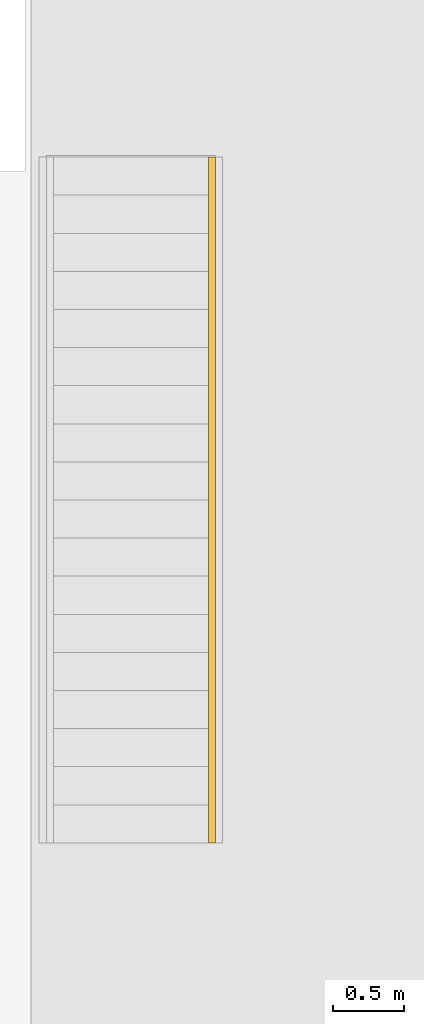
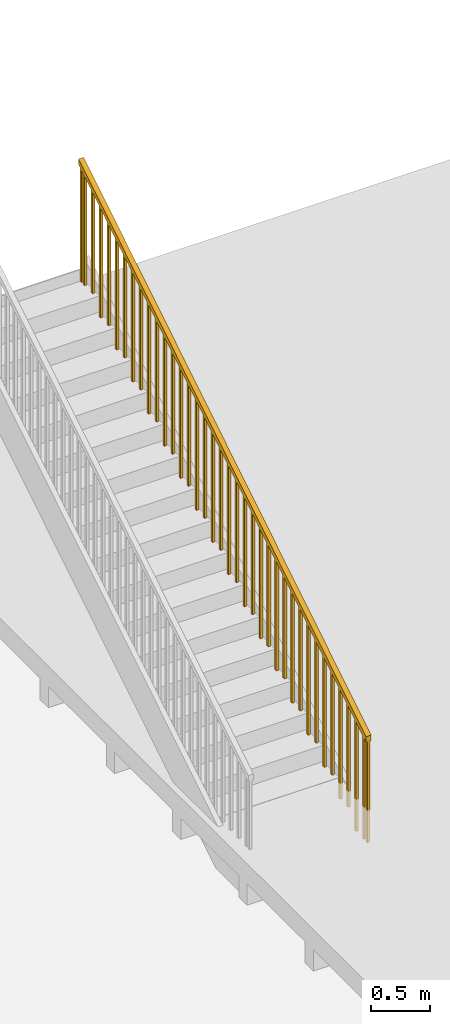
# One storey, part 3 of 4: 1 railing, 1 element without a shape of its own.
"""IFC2X3 building model written with IfcOpenShell, lengths in millimetres."""

import ifcopenshell
import ifcopenshell.guid

model = None  # the IFC model being written
_history = None  # IfcOwnerHistory: only IFC2X3 demands one
_inside = {}  # id of a spatial element -> (the spatial element, [elements in it])
_under = {}  # id of a project, library or spatial element -> (it, [spatial elements below it])
_declared = {}  # id of a project -> (the project, [libraries it declares])
_typed = {}  # id of a type object -> (the type object, [elements of that type])
_made_of = {}  # id of a material, layer set ... -> (it, [elements and type objects made of it])


def new_model(schema):
    """Start an empty IFC model of exactly this schema.

    Asked for "IFC4X3", IfcOpenShell would pick the latest addendum, in which some entities
    have other attributes; the version numbers below select the first issue.
    IFC2X3 requires an IfcOwnerHistory on every rooted entity: one is made here for all.
    """
    global model, _history
    if schema == "IFC4X3":
        model = ifcopenshell.file(schema_version=(4, 3, 0, 0))
    else:
        model = ifcopenshell.file(schema=schema)
    _inside.clear()
    _under.clear()
    _declared.clear()
    _typed.clear()
    _made_of.clear()
    _history = None
    if model.schema == "IFC2X3":
        org = make("IfcOrganization", Name="unknown")
        user = make(
            "IfcPersonAndOrganization",
            ThePerson=make("IfcPerson", FamilyName="unknown"),
            TheOrganization=org,
        )
        app = make(
            "IfcApplication",
            ApplicationDeveloper=org,
            Version="unknown",
            ApplicationFullName="unknown",
            ApplicationIdentifier="unknown",
        )
        _history = make(
            "IfcOwnerHistory",
            OwningUser=user,
            OwningApplication=app,
            ChangeAction="ADDED",
            CreationDate=0,
        )
    return model


def make(cls, **values):
    """One entity of the class cls with the attributes given. An attribute that is None is left unset."""
    return model.create_entity(
        cls, **{name: value for name, value in values.items() if value is not None}
    )


def entity(cls, *values):
    """Any entity or typed value of the class cls, its attributes in the order of the schema. None: left unset."""
    e = model.create_entity(cls)
    for i, value in enumerate(values):
        if value is not None:
            e[i] = value
    return e


def rooted(cls, **values):
    """An entity with a GlobalId (a new one), such as an element, a storey or a relation."""
    return make(cls, GlobalId=ifcopenshell.guid.new(), OwnerHistory=_history, **values)


def si_unit(unit_type, name, prefix=None):
    """IfcSIUnit, for example si_unit("LENGTHUNIT", "METRE", prefix="MILLI")."""
    return make("IfcSIUnit", UnitType=unit_type, Prefix=prefix, Name=name)


def converted_unit(unit_type, name, factor, base, dimensions=None, offset=None):
    """IfcConversionBasedUnit, such as the inch: factor (a typed value) times the base unit."""
    return make(
        "IfcConversionBasedUnit"
        if offset is None
        else "IfcConversionBasedUnitWithOffset",
        ConversionOffset=offset,
        Dimensions=None
        if dimensions is None
        else entity("IfcDimensionalExponents", *dimensions),
        UnitType=unit_type,
        Name=name,
        ConversionFactor=make(
            "IfcMeasureWithUnit", ValueComponent=factor, UnitComponent=base
        ),
    )


def derived_unit(unit_type, elements):
    """IfcDerivedUnit: a product of units, each with its exponent."""
    return make(
        "IfcDerivedUnit",
        Elements=[
            make("IfcDerivedUnitElement", Unit=unit, Exponent=power)
            for unit, power in elements
        ],
        UnitType=unit_type,
    )


def assignment(units):
    """IfcUnitAssignment: the units of a project."""
    return None if units is None else make("IfcUnitAssignment", Units=units)


def point(xyz):
    """IfcCartesianPoint."""
    return None if xyz is None else make("IfcCartesianPoint", Coordinates=xyz)


def direction(xyz):
    """IfcDirection."""
    return None if xyz is None else make("IfcDirection", DirectionRatios=xyz)


def frame(location, z_axis=None, x_axis=None):
    """IfcAxis2Placement3D, a coordinate frame: its origin and axes. An axis left out is left unset."""
    return make(
        "IfcAxis2Placement3D",
        Location=point(location),
        Axis=direction(z_axis),
        RefDirection=direction(x_axis),
    )


def origin():
    """The frame at (0, 0, 0) with its axes left unset."""
    return frame((0.0, 0.0, 0.0))


def place(relative_to, where):
    """IfcLocalPlacement: puts the frame where relative to a parent placement (None: the world)."""
    return make(
        "IfcLocalPlacement", PlacementRelTo=relative_to, RelativePlacement=where
    )


def context(
    kind, dimensions, precision=None, world=None, true_north=None, identifier=None
):
    """IfcGeometricRepresentationContext, for example the 3D "Model" context."""
    return make(
        "IfcGeometricRepresentationContext",
        ContextIdentifier=identifier,
        ContextType=kind,
        CoordinateSpaceDimension=dimensions,
        Precision=precision,
        WorldCoordinateSystem=world,
        TrueNorth=true_north,
    )


def subcontext(parent, identifier, kind, view, scale=None):
    """IfcGeometricRepresentationSubContext, for example "Body" below "Model"."""
    return make(
        "IfcGeometricRepresentationSubContext",
        ContextIdentifier=identifier,
        ContextType=kind,
        ParentContext=parent,
        TargetScale=scale,
        TargetView=view,
    )


def project(units=None, contexts=None):
    """IfcProject with its units and contexts."""
    return rooted(
        "IfcProject",
        Name="project",
        RepresentationContexts=contexts,
        UnitsInContext=assignment(units),
    )


def spatial(cls, under=None, at=None, **own):
    """A site, building, storey or space (cls), placed at a placement, below another one or the project."""
    s = rooted(cls, ObjectPlacement=at, **own)
    if under is not None:
        _under.setdefault(under.id(), (under, []))[1].append(s)
    return s


def polyline(points):
    """IfcPolyline through the points."""
    return make("IfcPolyline", Points=[point(p) for p in points])


def outline(outer, holes=None, kind="AREA"):
    """IfcArbitraryClosedProfileDef: a profile drawn as a closed curve; with holes, ...WithVoids."""
    if holes is None:
        return make("IfcArbitraryClosedProfileDef", ProfileType=kind, OuterCurve=outer)
    return make(
        "IfcArbitraryProfileDefWithVoids",
        ProfileType=kind,
        OuterCurve=outer,
        InnerCurves=holes,
    )


def extrude(swept, where, along, depth):
    """IfcExtrudedAreaSolid: the profile swept, set in the frame where, extruded along a direction by depth."""
    return make(
        "IfcExtrudedAreaSolid",
        SweptArea=swept,
        Position=where,
        ExtrudedDirection=direction(along),
        Depth=depth,
    )


def shape(context_of_items, identifier, shape_type, items):
    """IfcShapeRepresentation: the items that make up one representation, for example the "Body"."""
    return make(
        "IfcShapeRepresentation",
        ContextOfItems=context_of_items,
        RepresentationIdentifier=identifier,
        RepresentationType=shape_type,
        Items=items,
    )


def made_of(thing, what):
    """Note that an element or type object is made of a material, layer set ...; save() writes the relation."""
    if what is not None:
        _made_of.setdefault(what.id(), (what, []))[1].append(thing)
    return thing


def element(
    cls,
    number,
    at=None,
    inside=None,
    cuts=None,
    type_object=None,
    material=None,
    context=None,
    identifier="Body",
    shape_type=None,
    held_by="IfcProductDefinitionShape",
    body=None,
    shapes=None,
    **own,
):
    """One element of the class cls, such as IfcWall. Its Tag is "e" and its number.

    at: its placement. inside: the storey or other place that contains it. cuts: it is an
    opening in that element (IfcRelVoidsElement). A single representation is given by context,
    identifier, shape_type and body (its items); several are given by shapes. held_by: the class
    of the entity that holds the representations. save() writes the other relations.
    """
    e = rooted(cls, Tag="e%d" % number, ObjectPlacement=at, **own)
    if body is not None:
        shapes = [shape(context, identifier, shape_type, body)]
    if shapes is not None:
        e.Representation = make(held_by, Representations=shapes)
    if inside is not None:
        _inside.setdefault(inside.id(), (inside, []))[1].append(e)
    if cuts is not None:
        rooted(
            "IfcRelVoidsElement", RelatingBuildingElement=cuts, RelatedOpeningElement=e
        )
    if type_object is not None:
        _typed.setdefault(type_object.id(), (type_object, []))[1].append(e)
    return made_of(e, material)


def aggregate(whole, parts):
    """IfcRelAggregates: a whole, such as a stair, and the parts it consists of."""
    return rooted("IfcRelAggregates", RelatingObject=whole, RelatedObjects=parts)


def save(model, path):
    """Write the relations noted so far, then the file.

    IfcRelAggregates (storeys below a building ...), IfcRelContainedInSpatialStructure (elements
    in a storey), IfcRelDefinesByType, IfcRelAssociatesMaterial and IfcRelDeclares: one each for
    every whole, place, type object, material and project.
    """
    for whole, parts in _under.values():
        aggregate(whole, parts)
    for where, things in _inside.values():
        rooted(
            "IfcRelContainedInSpatialStructure",
            RelatedElements=things,
            RelatingStructure=where,
        )
    for kind, things in _typed.values():
        rooted("IfcRelDefinesByType", RelatedObjects=things, RelatingType=kind)
    for what, things in _made_of.values():
        rooted("IfcRelAssociatesMaterial", RelatedObjects=things, RelatingMaterial=what)
    for by, libraries in _declared.values():
        rooted("IfcRelDeclares", RelatingContext=by, RelatedDefinitions=libraries)
    model.write(path)


model = new_model("IFC2X3")

# Units and contexts
model_context = context("Model", 3, precision=0.01, world=origin(), true_north=direction((4.05803320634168e-15, -1.0)))
body_context = subcontext(model_context, "Body", "Model", "MODEL_VIEW")
ifc_project = project(units=[si_unit("LENGTHUNIT", "METRE", prefix="MILLI"), si_unit("AREAUNIT", "SQUARE_METRE"), si_unit("VOLUMEUNIT", "CUBIC_METRE"), converted_unit("PLANEANGLEUNIT", "DEGREE", entity("IfcRatioMeasure", 0.0174532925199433), si_unit("PLANEANGLEUNIT", "RADIAN"), dimensions=[0, 0, 0, 0, 0, 0, 0]), si_unit("MASSUNIT", "GRAM", prefix="KILO"), derived_unit("MASSDENSITYUNIT", [(si_unit("MASSUNIT", "GRAM", prefix="KILO"), 1), (si_unit("LENGTHUNIT", "METRE"), -3)]), si_unit("TIMEUNIT", "SECOND"), si_unit("FREQUENCYUNIT", "HERTZ"), si_unit("THERMODYNAMICTEMPERATUREUNIT", "DEGREE_CELSIUS"), derived_unit("THERMALTRANSMITTANCEUNIT", [(si_unit("MASSUNIT", "GRAM", prefix="KILO"), 1), (si_unit("THERMODYNAMICTEMPERATUREUNIT", "KELVIN"), -1), (si_unit("TIMEUNIT", "SECOND"), -3)]), derived_unit("VOLUMETRICFLOWRATEUNIT", [(si_unit("LENGTHUNIT", "METRE"), 3), (si_unit("TIMEUNIT", "SECOND"), -1)]), si_unit("ELECTRICCURRENTUNIT", "AMPERE"), si_unit("ELECTRICVOLTAGEUNIT", "VOLT"), si_unit("POWERUNIT", "WATT"), si_unit("FORCEUNIT", "NEWTON", prefix="KILO"), si_unit("ILLUMINANCEUNIT", "LUX"), si_unit("LUMINOUSFLUXUNIT", "LUMEN"), si_unit("LUMINOUSINTENSITYUNIT", "CANDELA"), derived_unit("USERDEFINED", [(si_unit("MASSUNIT", "GRAM", prefix="KILO"), -1), (si_unit("LENGTHUNIT", "METRE"), -2), (si_unit("TIMEUNIT", "SECOND"), 3), (si_unit("LUMINOUSFLUXUNIT", "LUMEN"), 1)]), derived_unit("LINEARVELOCITYUNIT", [(si_unit("LENGTHUNIT", "METRE"), 1), (si_unit("TIMEUNIT", "SECOND"), -1)]), si_unit("PRESSUREUNIT", "PASCAL"), derived_unit("USERDEFINED", [(si_unit("LENGTHUNIT", "METRE"), -2), (si_unit("MASSUNIT", "GRAM", prefix="KILO"), 1), (si_unit("TIMEUNIT", "SECOND"), -2)])], contexts=[model_context])

# Site, building, storey
site_placement = place(None, frame((927466.849349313, 583801.882853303, 0.0), z_axis=(0.0, 0.0, 1.0), x_axis=(-1.0, 0.0, 0.0)))
site = spatial("IfcSite", under=ifc_project, at=site_placement, Name="Surface", CompositionType="ELEMENT")
building_placement = place(site_placement, origin())
building = spatial("IfcBuilding", under=site, at=building_placement, CompositionType="ELEMENT")
storey_placement = place(building_placement, frame((0.0, 0.0, 47670.0)))
storey = spatial("IfcBuildingStorey", under=building, at=storey_placement, Name="Ceiling 3500", CompositionType="ELEMENT", Elevation=47670.0)

# Stair, railing
stair_placement = place(storey_placement, origin())
stair = element("IfcStair", 1, at=stair_placement, inside=storey, Name="Assembled Stair:Stair", ObjectType="Assembled Stair:170mm max riser 270mm going", ShapeType="NOTDEFINED")
railing_placement = place(stair_placement, origin())
railing = element("IfcRailing", 2, at=railing_placement, Name="Railing:1100mm", ObjectType="Railing:1100mm", PredefinedType="NOTDEFINED", context=body_context, shape_type="SweptSolid", body=[
    extrude(outline(polyline([(292.83525436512, -495.744599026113), (322.255266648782, -495.744599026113), (-296.923239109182, 502.334186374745), (-318.16728190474, 489.1550116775), (292.83525436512, -495.744599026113)])), frame((-118437.69177989, 15174.9703267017, 3598.39248771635), z_axis=(1.0, 0.0, 0.0), x_axis=(0.0, -0.84976171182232, 0.527166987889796)), (0.0, 0.0, 1.0), 25.0000000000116),
    extrude(outline(polyline([(270.760136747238, -460.160827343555), (300.180149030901, -460.160827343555), (-274.848121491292, 466.750414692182), (-296.09216428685, 453.571239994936), (270.760136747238, -460.160827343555)])), frame((-118437.69177989, 15309.9703267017, 3556.51748771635), z_axis=(1.0, 0.0, 0.0), x_axis=(0.0, -0.84976171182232, 0.527166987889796)), (0.0, 0.0, 1.0), 25.0000000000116),
    extrude(outline(polyline([(292.835254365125, -495.74459902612), (322.255266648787, -495.74459902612), (-296.923239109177, 502.334186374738), (-318.167281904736, 489.155011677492), (292.835254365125, -495.74459902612)])), frame((-118437.69177989, 15444.9703267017, 3430.89248771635), z_axis=(1.0, 0.0, 0.0), x_axis=(0.0, -0.84976171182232, 0.527166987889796)), (0.0, 0.0, 1.0), 25.0000000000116),
    extrude(outline(polyline([(270.760136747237, -460.160827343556), (300.180149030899, -460.160827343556), (-274.848121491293, 466.75041469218), (-296.092164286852, 453.571239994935), (270.760136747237, -460.160827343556)])), frame((-118437.69177989, 15579.9703267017, 3389.01748771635), z_axis=(1.0, 0.0, 0.0), x_axis=(0.0, -0.84976171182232, 0.527166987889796)), (0.0, 0.0, 1.0), 25.0000000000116),
    extrude(outline(polyline([(292.835254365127, -495.744599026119), (322.255266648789, -495.744599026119), (-296.923239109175, 502.334186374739), (-318.167281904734, 489.155011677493), (292.835254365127, -495.744599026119)])), frame((-118437.69177989, 15714.9703267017, 3263.39248771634), z_axis=(1.0, 0.0, 0.0), x_axis=(0.0, -0.84976171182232, 0.527166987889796)), (0.0, 0.0, 1.0), 25.0000000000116),
    extrude(outline(polyline([(270.760136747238, -460.160827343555), (300.180149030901, -460.160827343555), (-274.848121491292, 466.750414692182), (-296.09216428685, 453.571239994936), (270.760136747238, -460.160827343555)])), frame((-118437.69177989, 15849.9703267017, 3221.51748771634), z_axis=(1.0, 0.0, 0.0), x_axis=(0.0, -0.84976171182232, 0.527166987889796)), (0.0, 0.0, 1.0), 25.0000000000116),
    extrude(outline(polyline([(292.835254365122, -495.744599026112), (322.255266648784, -495.744599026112), (-296.92323910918, 502.334186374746), (-318.167281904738, 489.155011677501), (292.835254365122, -495.744599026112)])), frame((-118437.69177989, 15984.9703267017, 3095.89248771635), z_axis=(1.0, 0.0, 0.0), x_axis=(0.0, -0.84976171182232, 0.527166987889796)), (0.0, 0.0, 1.0), 25.0000000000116),
    extrude(outline(polyline([(270.760136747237, -460.160827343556), (300.180149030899, -460.160827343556), (-274.848121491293, 466.75041469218), (-296.092164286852, 453.571239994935), (270.760136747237, -460.160827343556)])), frame((-118437.69177989, 16119.9703267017, 3054.01748771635), z_axis=(1.0, 0.0, 0.0), x_axis=(0.0, -0.84976171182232, 0.527166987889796)), (0.0, 0.0, 1.0), 25.0000000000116),
    extrude(outline(polyline([(292.835254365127, -495.744599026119), (322.255266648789, -495.744599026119), (-296.923239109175, 502.334186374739), (-318.167281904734, 489.155011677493), (292.835254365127, -495.744599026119)])), frame((-118437.69177989, 16254.9703267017, 2928.39248771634), z_axis=(1.0, 0.0, 0.0), x_axis=(0.0, -0.84976171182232, 0.527166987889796)), (0.0, 0.0, 1.0), 25.0000000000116),
    extrude(outline(polyline([(270.760136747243, -460.160827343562), (300.180149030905, -460.160827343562), (-274.848121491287, 466.750414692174), (-296.092164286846, 453.571239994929), (270.760136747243, -460.160827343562)])), frame((-118437.69177989, 16389.9703267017, 2886.51748771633), z_axis=(1.0, 0.0, 0.0), x_axis=(0.0, -0.84976171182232, 0.527166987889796)), (0.0, 0.0, 1.0), 25.0000000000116),
    extrude(outline(polyline([(292.835254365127, -495.744599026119), (322.255266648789, -495.744599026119), (-296.923239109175, 502.334186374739), (-318.167281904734, 489.155011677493), (292.835254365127, -495.744599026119)])), frame((-118437.69177989, 16524.9703267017, 2760.89248771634), z_axis=(1.0, 0.0, 0.0), x_axis=(0.0, -0.84976171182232, 0.527166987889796)), (0.0, 0.0, 1.0), 25.0000000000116),
    extrude(outline(polyline([(270.760136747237, -460.160827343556), (300.180149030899, -460.160827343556), (-274.848121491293, 466.75041469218), (-296.092164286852, 453.571239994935), (270.760136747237, -460.160827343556)])), frame((-118437.69177989, 16659.9703267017, 2719.01748771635), z_axis=(1.0, 0.0, 0.0), x_axis=(0.0, -0.84976171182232, 0.527166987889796)), (0.0, 0.0, 1.0), 25.0000000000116),
    extrude(outline(polyline([(292.835254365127, -495.744599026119), (322.255266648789, -495.744599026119), (-296.923239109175, 502.334186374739), (-318.167281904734, 489.155011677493), (292.835254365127, -495.744599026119)])), frame((-118437.69177989, 16794.9703267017, 2593.39248771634), z_axis=(1.0, 0.0, 0.0), x_axis=(0.0, -0.84976171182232, 0.527166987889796)), (0.0, 0.0, 1.0), 25.0000000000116),
    extrude(outline(polyline([(270.760136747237, -460.160827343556), (300.180149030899, -460.160827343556), (-274.848121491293, 466.75041469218), (-296.092164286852, 453.571239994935), (270.760136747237, -460.160827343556)])), frame((-118437.69177989, 16929.9703267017, 2551.51748771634), z_axis=(1.0, 0.0, 0.0), x_axis=(0.0, -0.84976171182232, 0.527166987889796)), (0.0, 0.0, 1.0), 25.0000000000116),
    extrude(outline(polyline([(292.835254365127, -495.744599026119), (322.255266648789, -495.744599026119), (-296.923239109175, 502.334186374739), (-318.167281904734, 489.155011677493), (292.835254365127, -495.744599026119)])), frame((-118437.69177989, 17064.9703267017, 2425.89248771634), z_axis=(1.0, 0.0, 0.0), x_axis=(0.0, -0.84976171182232, 0.527166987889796)), (0.0, 0.0, 1.0), 25.0000000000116),
    extrude(outline(polyline([(270.760136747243, -460.160827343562), (300.180149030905, -460.160827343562), (-274.848121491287, 466.750414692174), (-296.092164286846, 453.571239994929), (270.760136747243, -460.160827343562)])), frame((-118437.69177989, 17199.9703267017, 2384.01748771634), z_axis=(1.0, 0.0, 0.0), x_axis=(0.0, -0.84976171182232, 0.527166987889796)), (0.0, 0.0, 1.0), 25.0000000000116),
    extrude(outline(polyline([(292.835254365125, -495.74459902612), (322.255266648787, -495.74459902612), (-296.923239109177, 502.334186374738), (-318.167281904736, 489.155011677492), (292.835254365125, -495.74459902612)])), frame((-118437.69177989, 17334.9703267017, 2258.39248771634), z_axis=(1.0, 0.0, 0.0), x_axis=(0.0, -0.84976171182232, 0.527166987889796)), (0.0, 0.0, 1.0), 25.0000000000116),
    extrude(outline(polyline([(270.760136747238, -460.160827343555), (300.180149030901, -460.160827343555), (-274.848121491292, 466.750414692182), (-296.09216428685, 453.571239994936), (270.760136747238, -460.160827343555)])), frame((-118437.69177989, 17469.9703267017, 2216.51748771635), z_axis=(1.0, 0.0, 0.0), x_axis=(0.0, -0.84976171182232, 0.527166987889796)), (0.0, 0.0, 1.0), 25.0000000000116),
    extrude(outline(polyline([(292.835254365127, -495.744599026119), (322.255266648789, -495.744599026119), (-296.923239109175, 502.334186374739), (-318.167281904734, 489.155011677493), (292.835254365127, -495.744599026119)])), frame((-118437.69177989, 17604.9703267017, 2090.89248771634), z_axis=(1.0, 0.0, 0.0), x_axis=(0.0, -0.84976171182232, 0.527166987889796)), (0.0, 0.0, 1.0), 25.0000000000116),
    extrude(outline(polyline([(270.760136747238, -460.160827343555), (300.180149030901, -460.160827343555), (-274.848121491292, 466.750414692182), (-296.09216428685, 453.571239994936), (270.760136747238, -460.160827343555)])), frame((-118437.69177989, 17739.9703267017, 2049.01748771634), z_axis=(1.0, 0.0, 0.0), x_axis=(0.0, -0.84976171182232, 0.527166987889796)), (0.0, 0.0, 1.0), 25.0000000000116),
    extrude(outline(polyline([(292.835254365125, -495.74459902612), (322.255266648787, -495.74459902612), (-296.923239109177, 502.334186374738), (-318.167281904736, 489.155011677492), (292.835254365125, -495.74459902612)])), frame((-118437.69177989, 17874.9703267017, 1923.39248771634), z_axis=(1.0, 0.0, 0.0), x_axis=(0.0, -0.84976171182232, 0.527166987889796)), (0.0, 0.0, 1.0), 25.0000000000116),
    extrude(outline(polyline([(270.760136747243, -460.160827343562), (300.180149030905, -460.160827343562), (-274.848121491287, 466.750414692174), (-296.092164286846, 453.571239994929), (270.760136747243, -460.160827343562)])), frame((-118437.69177989, 18009.9703267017, 1881.51748771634), z_axis=(1.0, 0.0, 0.0), x_axis=(0.0, -0.84976171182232, 0.527166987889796)), (0.0, 0.0, 1.0), 25.0000000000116),
    extrude(outline(polyline([(292.83525436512, -495.744599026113), (322.255266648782, -495.744599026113), (-296.923239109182, 502.334186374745), (-318.16728190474, 489.1550116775), (292.83525436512, -495.744599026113)])), frame((-118437.69177989, 18144.9703267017, 1755.89248771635), z_axis=(1.0, 0.0, 0.0), x_axis=(0.0, -0.84976171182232, 0.527166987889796)), (0.0, 0.0, 1.0), 25.0000000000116),
    extrude(outline(polyline([(270.760136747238, -460.160827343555), (300.180149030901, -460.160827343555), (-274.848121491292, 466.750414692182), (-296.09216428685, 453.571239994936), (270.760136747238, -460.160827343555)])), frame((-118437.69177989, 18279.9703267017, 1714.01748771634), z_axis=(1.0, 0.0, 0.0), x_axis=(0.0, -0.84976171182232, 0.527166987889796)), (0.0, 0.0, 1.0), 25.0000000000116),
    extrude(outline(polyline([(292.835254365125, -495.74459902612), (322.255266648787, -495.74459902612), (-296.923239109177, 502.334186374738), (-318.167281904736, 489.155011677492), (292.835254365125, -495.74459902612)])), frame((-118437.69177989, 18414.9703267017, 1588.39248771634), z_axis=(1.0, 0.0, 0.0), x_axis=(0.0, -0.84976171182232, 0.527166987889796)), (0.0, 0.0, 1.0), 25.0000000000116),
    extrude(outline(polyline([(270.760136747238, -460.160827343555), (300.180149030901, -460.160827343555), (-274.848121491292, 466.750414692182), (-296.09216428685, 453.571239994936), (270.760136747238, -460.160827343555)])), frame((-118437.69177989, 18549.9703267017, 1546.51748771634), z_axis=(1.0, 0.0, 0.0), x_axis=(0.0, -0.84976171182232, 0.527166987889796)), (0.0, 0.0, 1.0), 25.0000000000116),
    extrude(outline(polyline([(292.835254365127, -495.744599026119), (322.255266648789, -495.744599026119), (-296.923239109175, 502.334186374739), (-318.167281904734, 489.155011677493), (292.835254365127, -495.744599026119)])), frame((-118437.69177989, 18684.9703267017, 1420.89248771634), z_axis=(1.0, 0.0, 0.0), x_axis=(0.0, -0.84976171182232, 0.527166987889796)), (0.0, 0.0, 1.0), 25.0000000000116),
    extrude(outline(polyline([(270.760136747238, -460.160827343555), (300.180149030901, -460.160827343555), (-274.848121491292, 466.750414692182), (-296.09216428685, 453.571239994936), (270.760136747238, -460.160827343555)])), frame((-118437.69177989, 18819.9703267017, 1379.01748771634), z_axis=(1.0, 0.0, 0.0), x_axis=(0.0, -0.84976171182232, 0.527166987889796)), (0.0, 0.0, 1.0), 25.0000000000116),
    extrude(outline(polyline([(292.835254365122, -495.744599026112), (322.255266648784, -495.744599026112), (-296.92323910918, 502.334186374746), (-318.167281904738, 489.155011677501), (292.835254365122, -495.744599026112)])), frame((-118437.69177989, 18954.9703267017, 1253.39248771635), z_axis=(1.0, 0.0, 0.0), x_axis=(0.0, -0.84976171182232, 0.527166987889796)), (0.0, 0.0, 1.0), 25.0000000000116),
    extrude(outline(polyline([(270.760136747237, -460.160827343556), (300.180149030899, -460.160827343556), (-274.848121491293, 466.75041469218), (-296.092164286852, 453.571239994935), (270.760136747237, -460.160827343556)])), frame((-118437.69177989, 19089.9703267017, 1211.51748771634), z_axis=(1.0, 0.0, 0.0), x_axis=(0.0, -0.84976171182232, 0.527166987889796)), (0.0, 0.0, 1.0), 25.0000000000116),
    extrude(outline(polyline([(292.835254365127, -495.744599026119), (322.255266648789, -495.744599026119), (-296.923239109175, 502.334186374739), (-318.167281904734, 489.155011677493), (292.835254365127, -495.744599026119)])), frame((-118437.69177989, 19224.9703267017, 1085.89248771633), z_axis=(1.0, 0.0, 0.0), x_axis=(0.0, -0.84976171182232, 0.527166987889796)), (0.0, 0.0, 1.0), 25.0000000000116),
    extrude(outline(polyline([(270.760136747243, -460.160827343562), (300.180149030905, -460.160827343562), (-274.848121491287, 466.750414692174), (-296.092164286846, 453.571239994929), (270.760136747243, -460.160827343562)])), frame((-118437.69177989, 19359.9703267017, 1044.01748771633), z_axis=(1.0, 0.0, 0.0), x_axis=(0.0, -0.84976171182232, 0.527166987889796)), (0.0, 0.0, 1.0), 25.0000000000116),
    extrude(outline(polyline([(292.835254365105, -495.744599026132), (322.25526664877, -495.744599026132), (-296.923239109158, 502.334186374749), (-318.167281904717, 489.155011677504), (292.835254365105, -495.744599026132)])), frame((-118437.69177989, 19494.9703267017, 918.392487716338), z_axis=(1.0, 0.0, 0.0), x_axis=(0.0, -0.849761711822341, 0.527166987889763)), (0.0, 0.0, 1.0), 25.0000000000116),
    extrude(outline(polyline([(270.760136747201, -460.160827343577), (300.180149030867, -460.160827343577), (-274.848121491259, 466.750414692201), (-296.092164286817, 453.571239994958), (270.760136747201, -460.160827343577)])), frame((-118437.69177989, 19629.9703267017, 876.517487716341), z_axis=(1.0, 0.0, 0.0), x_axis=(0.0, -0.849761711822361, 0.52716698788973)), (0.0, 0.0, 1.0), 25.0000000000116),
    extrude(outline(polyline([(292.83525436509, -495.744599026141), (322.255266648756, -495.744599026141), (-296.923239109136, 502.334186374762), (-318.167281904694, 489.155011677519), (292.83525436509, -495.744599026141)])), frame((-118437.69177989, 19764.9703267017, 750.892487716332), z_axis=(1.0, 0.0, 0.0), x_axis=(0.0, -0.849761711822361, 0.52716698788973)), (0.0, 0.0, 1.0), 25.0000000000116),
    extrude(outline(polyline([(270.760136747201, -460.160827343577), (300.180149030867, -460.160827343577), (-274.848121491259, 466.750414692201), (-296.092164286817, 453.571239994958), (270.760136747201, -460.160827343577)])), frame((-118437.69177989, 19899.9703267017, 709.017487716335), z_axis=(1.0, 0.0, 0.0), x_axis=(0.0, -0.849761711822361, 0.52716698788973)), (0.0, 0.0, 1.0), 25.0000000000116),
    extrude(outline(polyline([(301.828820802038, -510.241691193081), (331.248833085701, -510.241691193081), (-305.916805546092, 516.831278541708), (-327.16084834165, 503.652103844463), (301.828820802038, -510.241691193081)])), frame((-118437.69177989, 15119.9703267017, 3615.45267290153), z_axis=(1.0, 0.0, 0.0), x_axis=(0.0, -0.84976171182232, 0.527166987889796)), (0.0, 0.0, 1.0), 25.0000000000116),
    extrude(outline(polyline([(261.76657031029, -445.663735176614), (291.186582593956, -445.663735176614), (-265.854555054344, 452.253322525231), (-287.098597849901, 439.074147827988), (261.76657031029, -445.663735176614)])), frame((-118437.69177989, 19954.9703267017, 691.957302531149), z_axis=(1.0, 0.0, 0.0), x_axis=(0.0, -0.849761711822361, 0.52716698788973)), (0.0, 0.0, 1.0), 25.0000000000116),
    extrude(outline(polyline([(-2844.11593471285, -25.0), (2875.13445323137, -25.0), (2844.11593471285, 25.0), (-2875.13445323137, 25.0), (-2844.11593471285, -25.0)])), frame((-118450.19177989, 17537.4703267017, 2745.57998771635), z_axis=(1.0, 0.0, 0.0), x_axis=(0.0, -0.849761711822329, 0.527166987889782)), (0.0, 0.0, 1.0), 49.9999999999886),
])
aggregate(stair, [railing])

save(model, "model.ifc")
